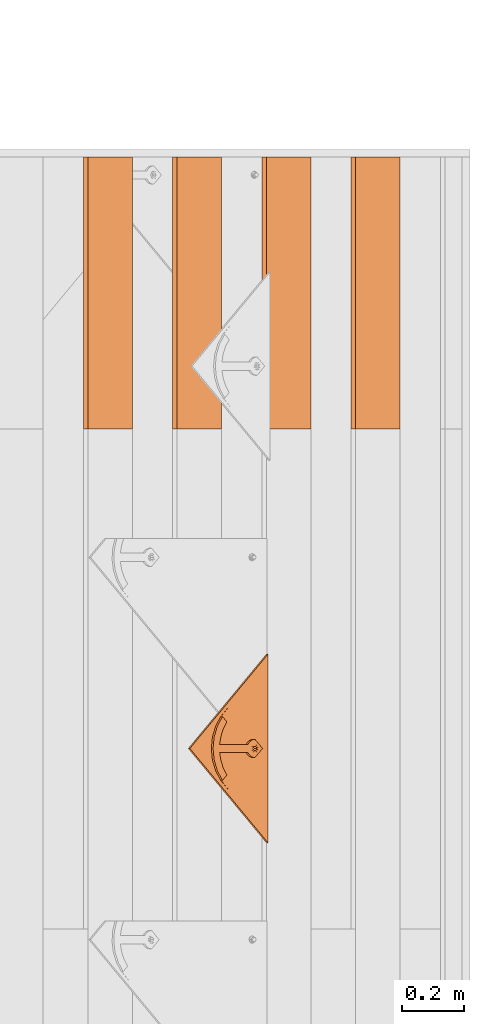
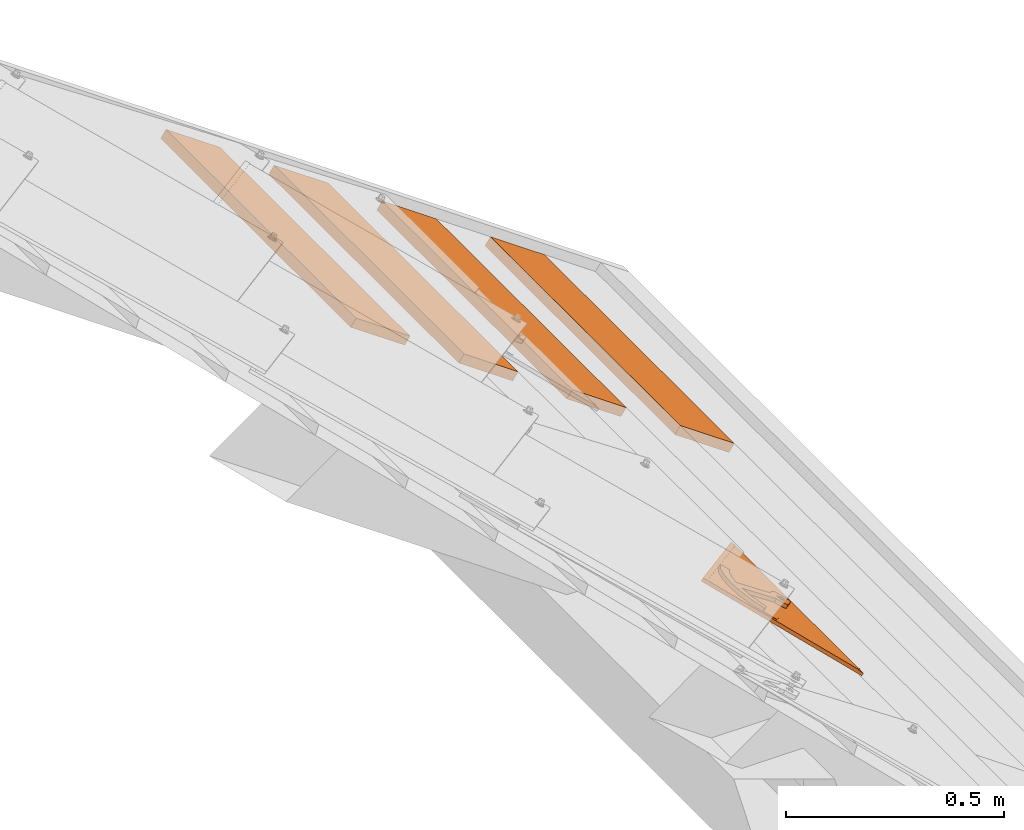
# One storey, part 138 of 151: 5 proxies, 1 element without a shape of its own.
"""IFC2X3 building model written with IfcOpenShell, lengths in millimetres."""

from ifc_helpers import new_model, entity, si_unit, converted_unit, derived_unit, direction, frame, frame_2d, origin, place, context, subcontext, project, spatial, rectangle, extrude, faceted_brep, source, transform, mapped, material, material_list, type_object, type_shapes, element, aggregate, save


model = new_model("IFC2X3")

# Units and contexts
model_context = context("Model", 3, precision=0.01, world=origin(), true_north=direction((6.12303176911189e-17, 1.0)))
body_context = subcontext(model_context, "Body", "Model", "MODEL_VIEW")
ifc_project = project(units=[si_unit("LENGTHUNIT", "METRE", prefix="MILLI"), si_unit("AREAUNIT", "SQUARE_METRE"), si_unit("VOLUMEUNIT", "CUBIC_METRE"), converted_unit("PLANEANGLEUNIT", "DEGREE", entity("IfcRatioMeasure", 0.0174532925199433), si_unit("PLANEANGLEUNIT", "RADIAN"), dimensions=[0, 0, 0, 0, 0, 0, 0]), si_unit("MASSUNIT", "GRAM", prefix="KILO"), derived_unit("MASSDENSITYUNIT", [(si_unit("MASSUNIT", "GRAM", prefix="KILO"), 1), (si_unit("LENGTHUNIT", "METRE"), -3)]), si_unit("TIMEUNIT", "SECOND"), si_unit("FREQUENCYUNIT", "HERTZ"), si_unit("THERMODYNAMICTEMPERATUREUNIT", "DEGREE_CELSIUS"), derived_unit("THERMALTRANSMITTANCEUNIT", [(si_unit("MASSUNIT", "GRAM", prefix="KILO"), 1), (si_unit("THERMODYNAMICTEMPERATUREUNIT", "KELVIN"), -1), (si_unit("TIMEUNIT", "SECOND"), -3)]), derived_unit("VOLUMETRICFLOWRATEUNIT", [(si_unit("LENGTHUNIT", "METRE"), 3), (si_unit("TIMEUNIT", "SECOND"), -1)]), si_unit("ELECTRICCURRENTUNIT", "AMPERE"), si_unit("ELECTRICVOLTAGEUNIT", "VOLT"), si_unit("POWERUNIT", "WATT"), si_unit("FORCEUNIT", "NEWTON", prefix="KILO"), si_unit("ILLUMINANCEUNIT", "LUX"), si_unit("LUMINOUSFLUXUNIT", "LUMEN"), si_unit("LUMINOUSINTENSITYUNIT", "CANDELA"), derived_unit("USERDEFINED", [(si_unit("MASSUNIT", "GRAM", prefix="KILO"), -1), (si_unit("LENGTHUNIT", "METRE"), -2), (si_unit("TIMEUNIT", "SECOND"), 3), (si_unit("LUMINOUSFLUXUNIT", "LUMEN"), 1)]), derived_unit("LINEARVELOCITYUNIT", [(si_unit("LENGTHUNIT", "METRE"), 1), (si_unit("TIMEUNIT", "SECOND"), -1)]), si_unit("PRESSUREUNIT", "PASCAL"), derived_unit("USERDEFINED", [(si_unit("LENGTHUNIT", "METRE"), -2), (si_unit("MASSUNIT", "GRAM", prefix="KILO"), 1), (si_unit("TIMEUNIT", "SECOND"), -2)])], contexts=[model_context])

# Site, building, storey
site_placement = place(None, origin())
site = spatial("IfcSite", under=ifc_project, at=site_placement, Name="Default", CompositionType="ELEMENT")
building_placement = place(site_placement, origin())
building = spatial("IfcBuilding", under=site, at=building_placement, CompositionType="ELEMENT")
storey_placement = place(building_placement, origin())
storey = spatial("IfcBuildingStorey", under=building, at=storey_placement, Name="Level 1", CompositionType="ELEMENT", Elevation=0.0)

# Assembly, proxies
assembly_placement = place(storey_placement, origin())
assembly = element("IfcElementAssembly", 1, at=assembly_placement, inside=storey, Name="Structural Framing Assembly:Roof Construction Assembly", ObjectType="Structural Framing Assembly:Roof Construction Assembly", AssemblyPlace="NOTDEFINED", PredefinedType="USERDEFINED")
ifc_material_1 = material(Name="Wood - Generic - Wood For Showcase")
building_element_proxy_type_1 = type_object("IfcBuildingElementProxyType", Name="Structural Framing 15", PredefinedType="NOTDEFINED", material=ifc_material_1)
shared_shape_1 = source(origin(), body_context, "Body", "SweptSolid", [
    extrude(rectangle(XDim=24.9999999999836, YDim=174.344679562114, at=frame_2d((2.98427949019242e-13, -4.2632564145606e-14), x_axis=(1.0, 0.0))), frame((1285.3560130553, 3055.55080214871, 2760.23940055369), z_axis=(0.0, 1.0, 0.0), x_axis=(0.573576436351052, 0.0, 0.819152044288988)), (0.0, 0.0, 1.0), 870.000000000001),
])
type_shapes(building_element_proxy_type_1, [shared_shape_1])
proxy_1_placement = place(assembly_placement, frame((2770.96908392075, 0.0, -1900.0)))
proxy_1 = element("IfcBuildingElementProxy", 2, at=proxy_1_placement, type_object=building_element_proxy_type_1, material=ifc_material_1, Name="Structural Framing 254:Structural Framing 15", ObjectType="Structural Framing 254:Structural Framing 15", context=body_context, shape_type="MappedRepresentation", body=[
    mapped(shared_shape_1, transform((0.0, 0.0, 0.0), scale=1.0)),
])
building_element_proxy_type_2 = type_object("IfcBuildingElementProxyType", Name="Structural Framing 15", PredefinedType="NOTDEFINED", material=ifc_material_1)
shared_shape_2 = source(origin(), body_context, "Body", "SweptSolid", [
    extrude(rectangle(XDim=24.9999999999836, YDim=174.344679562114, at=frame_2d((2.98427949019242e-13, -4.2632564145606e-14), x_axis=(1.0, 0.0))), frame((1285.3560130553, 3055.55080214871, 2760.23940055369), z_axis=(0.0, 1.0, 0.0), x_axis=(0.573576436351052, 0.0, 0.819152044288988)), (0.0, 0.0, 1.0), 870.000000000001),
])
type_shapes(building_element_proxy_type_2, [shared_shape_2])
proxy_2_placement = place(assembly_placement, frame((3056.5986852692, 0.0, -2100.0)))
proxy_2 = element("IfcBuildingElementProxy", 3, at=proxy_2_placement, type_object=building_element_proxy_type_2, material=ifc_material_1, Name="Structural Framing 264:Structural Framing 15", ObjectType="Structural Framing 264:Structural Framing 15", context=body_context, shape_type="MappedRepresentation", body=[
    mapped(shared_shape_2, transform((0.0, 0.0, 0.0), scale=1.0)),
])
building_element_proxy_type_3 = type_object("IfcBuildingElementProxyType", Name="Structural Framing 15", PredefinedType="NOTDEFINED", material=ifc_material_1)
shared_shape_3 = source(origin(), body_context, "Body", "SweptSolid", [
    extrude(rectangle(XDim=24.9999999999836, YDim=174.344679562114, at=frame_2d((2.98427949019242e-13, -4.2632564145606e-14), x_axis=(1.0, 0.0))), frame((1285.3560130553, 3055.55080214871, 2760.23940055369), z_axis=(0.0, 1.0, 0.0), x_axis=(0.573576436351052, 0.0, 0.819152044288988)), (0.0, 0.0, 1.0), 870.000000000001),
])
type_shapes(building_element_proxy_type_3, [shared_shape_3])
proxy_3_placement = place(assembly_placement, frame((3342.22828661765, 0.0, -2300.0)))
proxy_3 = element("IfcBuildingElementProxy", 4, at=proxy_3_placement, type_object=building_element_proxy_type_3, material=ifc_material_1, Name="Structural Framing 274:Structural Framing 15", ObjectType="Structural Framing 274:Structural Framing 15", context=body_context, shape_type="MappedRepresentation", body=[
    mapped(shared_shape_3, transform((0.0, 0.0, 0.0), scale=1.0)),
])
building_element_proxy_type_4 = type_object("IfcBuildingElementProxyType", Name="Structural Framing 15", PredefinedType="NOTDEFINED", material=ifc_material_1)
shared_shape_4 = source(origin(), body_context, "Body", "SweptSolid", [
    extrude(rectangle(XDim=24.9999999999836, YDim=174.344679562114, at=frame_2d((2.98427949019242e-13, -4.2632564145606e-14), x_axis=(1.0, 0.0))), frame((1285.3560130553, 3055.55080214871, 2760.23940055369), z_axis=(0.0, 1.0, 0.0), x_axis=(0.573576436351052, 0.0, 0.819152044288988)), (0.0, 0.0, 1.0), 870.000000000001),
])
type_shapes(building_element_proxy_type_4, [shared_shape_4])
proxy_4_placement = place(assembly_placement, frame((3627.8578879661, 0.0, -2500.0)))
proxy_4 = element("IfcBuildingElementProxy", 5, at=proxy_4_placement, type_object=building_element_proxy_type_4, material=ifc_material_1, Name="Structural Framing 284:Structural Framing 15", ObjectType="Structural Framing 284:Structural Framing 15", context=body_context, shape_type="MappedRepresentation", body=[
    mapped(shared_shape_4, transform((0.0, 0.0, 0.0), scale=1.0)),
])
aggregate(assembly, [proxy_1, proxy_2, proxy_3, proxy_4])

# Proxy
ifc_material_2 = material(Name="Rubber - Sunstyle - Black")
ifc_material_3 = material(Name="Glass - Sunstyle - Tainted Black")
ifc_material_list_1 = material_list([ifc_material_2, ifc_material_3])
ifc_material_list_2 = material_list([ifc_material_2, ifc_material_3])
building_element_proxy_type_5 = type_object("IfcBuildingElementProxyType", Name="Shingle Bottom Small - Black", PredefinedType="NOTDEFINED", material=ifc_material_list_2)
shared_shape_5 = source(origin(), body_context, "Body", "Brep", [
    faceted_brep([(302.08842791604, 44.9093317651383, 22.0558382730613), (302.08842791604, 49.408700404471, 21.980485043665), (293.484723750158, 48.4726030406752, 21.9961623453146), (310.692132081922, 48.4726030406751, 21.9961623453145), (308.728656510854, 53.2419006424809, 21.9162884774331), (314.255903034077, 57.0751008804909, 21.8520919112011), (308.728656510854, 60.9083011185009, 21.7878953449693), (310.692132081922, 65.6775987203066, 21.7080214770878), (302.08842791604, 64.7415013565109, 21.7236987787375), (302.08842791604, 69.2408699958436, 21.6483455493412), (293.484723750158, 65.6775987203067, 21.708021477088), (295.448199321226, 60.908301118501, 21.7878953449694), (289.920952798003, 57.0751008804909, 21.8520919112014), (295.448199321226, 53.2419006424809, 21.9162884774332), (295.448199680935, 60.6403782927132, 5.79013870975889), (302.08842791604, 64.473578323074, 5.72594214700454), (295.448199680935, 52.9739782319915, 5.91853183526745), (302.08842791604, 49.1407782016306, 5.98272839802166), (308.728656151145, 52.9739782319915, 5.91853183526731), (308.728656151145, 60.6403782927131, 5.79013870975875), (293.484723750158, 48.2046804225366, 5.99840570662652), (302.08842791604, 44.6414091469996, 6.05808163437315), (289.920952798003, 56.8071782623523, 5.85433527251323), (293.484723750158, 65.4096761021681, 5.71026483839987), (302.08842791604, 68.972947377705, 5.65058891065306), (310.692132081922, 65.409676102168, 5.71026483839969), (314.255903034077, 56.8071782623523, 5.85433527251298), (310.692132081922, 48.2046804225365, 5.99840570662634)], [[[0, 1, 2]], [[1, 0, 3]], [[3, 4, 1]], [[4, 3, 5]], [[6, 4, 5]], [[5, 7, 6]], [[7, 8, 6]], [[8, 7, 9]], [[8, 9, 10]], [[10, 11, 8]], [[12, 11, 10]], [[2, 13, 12]], [[12, 13, 11]], [[13, 2, 1]], [[8, 11, 14, 15]], [[11, 13, 16, 14]], [[13, 1, 17, 16]], [[1, 4, 18, 17]], [[4, 6, 19, 18]], [[6, 8, 15, 19]], [[20, 17, 21]], [[17, 20, 16]], [[22, 16, 20]], [[14, 16, 22]], [[23, 14, 22]], [[15, 14, 23]], [[23, 24, 15]], [[24, 25, 15]], [[19, 15, 25]], [[19, 25, 26]], [[26, 18, 19]], [[26, 27, 18]], [[17, 18, 27]], [[27, 21, 17]], [[24, 23, 10, 9]], [[10, 23, 22, 12]], [[20, 21, 0, 2]], [[20, 2, 12, 22]], [[21, 27, 3, 0]], [[3, 27, 26, 5]], [[25, 24, 9, 7]], [[25, 7, 5, 26]]]),
    faceted_brep([(587.35835892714, 0.0, 12.5593198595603), (595.843045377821, 8.4846864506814, 12.4172224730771), (595.843045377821, 8.50980419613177, 13.9170121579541), (587.35835892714, 0.0251177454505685, 14.0591095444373), (302.088750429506, 285.189618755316, 7.7831033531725), (16.8191419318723, 0.0, 12.5593198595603), (8.33445548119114, 8.48468645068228, 12.4172224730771), (302.088750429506, 302.156612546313, 7.49894842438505), (302.088750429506, 302.181730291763, 8.9987381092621), (8.33445548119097, 8.50980419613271, 13.9170121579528), (16.8191419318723, 0.0251177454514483, 14.0591095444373), (302.088750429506, 285.214736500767, 9.28289303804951)], [[[0, 1, 2, 3]], [[1, 0, 4, 5, 6, 7]], [[2, 1, 7, 8]], [[3, 2, 8, 9, 10, 11]], [[0, 3, 11, 4]], [[5, 10, 9, 6]], [[8, 7, 6, 9]], [[4, 11, 10, 5]]]),
    faceted_brep([(302.088750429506, 302.156612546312, 7.49894842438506), (305.194256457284, 68.3255429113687, 11.4150370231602), (308.088427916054, 67.1269059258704, 11.4351112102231), (302.088427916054, 68.7343756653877, 11.4081900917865), (310.573709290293, 65.2201498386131, 11.4670446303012), (298.982599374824, 68.3255429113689, 11.4150370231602), (296.088427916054, 67.1269059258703, 11.4351112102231), (293.603146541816, 65.2201498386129, 11.4670446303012), (312.480732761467, 62.7352169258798, 11.5086610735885), (604.177500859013, 0.152567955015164, 12.5567647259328), (291.696123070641, 62.7352169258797, 11.5086610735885), (0.0, 0.152567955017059, 12.5567647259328), (290.497318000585, 59.8414512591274, 11.5571244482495), (290.088427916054, 56.7360581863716, 11.6091320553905), (290.497318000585, 53.6306651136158, 11.6611396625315), (291.696123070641, 50.7368994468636, 11.7096030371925), (293.603146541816, 48.2519665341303, 11.7512194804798), (296.088427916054, 46.3452104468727, 11.7831529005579), (298.982599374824, 45.1465734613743, 11.8032270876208), (302.088427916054, 44.7377407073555, 11.8100740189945), (313.679537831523, 59.8414512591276, 11.5571244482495), (314.088427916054, 56.7360581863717, 11.6091320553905), (313.679537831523, 53.6306651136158, 11.6611396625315), (312.480732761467, 50.7368994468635, 11.7096030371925), (310.573709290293, 48.2519665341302, 11.7512194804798), (308.088427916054, 46.3452104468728, 11.7831529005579), (305.194256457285, 45.1465734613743, 11.8032270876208), (0.0, 0.0269792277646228, 5.0578163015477), (290.088427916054, 56.6104694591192, 4.11018363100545), (290.497318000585, 53.5050763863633, 4.16219123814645), (290.497318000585, 59.7158625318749, 4.05817602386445), (291.696123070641, 50.6113107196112, 4.21065461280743), (291.696123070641, 62.6096281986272, 4.00971264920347), (302.088750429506, 302.031023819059, 0.0), (293.603146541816, 48.1263778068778, 4.25227105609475), (296.088427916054, 46.2196217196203, 4.28420447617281), (298.982599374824, 45.0209847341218, 4.30427866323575), (302.088427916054, 44.612151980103, 4.31112559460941), (604.177500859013, 0.0269792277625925, 5.05781630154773), (293.603146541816, 65.0945611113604, 3.96809620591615), (296.088427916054, 67.0013171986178, 3.93616278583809), (298.982599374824, 68.1999541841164, 3.91608859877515), (302.088427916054, 68.6087869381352, 3.90924166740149), (305.194256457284, 68.1999541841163, 3.91608859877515), (308.088427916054, 67.0013171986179, 3.93616278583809), (310.573709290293, 65.0945611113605, 3.96809620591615), (312.480732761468, 62.6096281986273, 4.00971264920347), (305.194256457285, 45.0209847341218, 4.30427866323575), (308.088427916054, 46.2196217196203, 4.28420447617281), (313.679537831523, 59.7158625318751, 4.05817602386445), (314.088427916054, 56.6104694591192, 4.11018363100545), (313.679537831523, 53.5050763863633, 4.16219123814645), (312.480732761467, 50.611310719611, 4.21065461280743), (310.573709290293, 48.1263778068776, 4.25227105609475)], [[[0, 1, 2]], [[1, 0, 3]], [[0, 2, 4]], [[5, 3, 0]], [[6, 5, 0]], [[0, 7, 6]], [[8, 0, 4]], [[0, 8, 9]], [[7, 0, 10]], [[0, 11, 10]], [[12, 10, 11]], [[11, 13, 12]], [[13, 11, 14]], [[15, 14, 11]], [[11, 16, 15]], [[17, 16, 11]], [[17, 11, 18]], [[19, 18, 11]], [[19, 11, 9]], [[9, 8, 20]], [[20, 21, 9]], [[21, 22, 9]], [[22, 23, 9]], [[9, 23, 24]], [[24, 25, 9]], [[25, 26, 9]], [[9, 26, 19]], [[27, 28, 29]], [[28, 27, 30]], [[27, 29, 31]], [[32, 30, 27]], [[32, 27, 33]], [[31, 34, 27]], [[34, 35, 27]], [[35, 36, 27]], [[36, 37, 27]], [[27, 37, 38]], [[33, 39, 32]], [[40, 39, 33]], [[41, 40, 33]], [[42, 41, 33]], [[33, 43, 42]], [[43, 33, 44]], [[45, 44, 33]], [[33, 46, 45]], [[46, 33, 38]], [[38, 37, 47]], [[47, 48, 38]], [[49, 46, 38]], [[38, 50, 49]], [[50, 38, 51]], [[52, 51, 38]], [[53, 52, 38]], [[53, 38, 48]], [[11, 0, 33, 27]], [[0, 9, 38, 33]], [[13, 28, 30, 12]], [[12, 30, 32, 10]], [[6, 7, 39, 40]], [[39, 7, 10, 32]], [[5, 6, 40, 41]], [[5, 41, 42, 3]], [[3, 42, 43, 1]], [[1, 43, 44, 2]], [[8, 4, 45, 46]], [[45, 4, 2, 44]], [[20, 8, 46, 49]], [[20, 49, 50, 21]], [[21, 50, 51, 22]], [[22, 51, 52, 23]], [[25, 24, 53, 48]], [[53, 24, 23, 52]], [[26, 25, 48, 47]], [[26, 47, 37, 19]], [[19, 37, 36, 18]], [[18, 36, 35, 17]], [[15, 16, 34, 31]], [[34, 16, 17, 35]], [[14, 15, 31, 29]], [[14, 29, 28, 13]], [[9, 11, 27, 38]]]),
    faceted_brep([(190.819384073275, 138.646056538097, 12.7376939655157), (217.144031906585, 164.967013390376, 12.2968834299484), (200.060856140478, 182.04779392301, 12.0108228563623), (193.80845410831, 176.686146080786, 12.100617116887), (187.837458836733, 171.012871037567, 12.1956303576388), (173.141714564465, 156.321247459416, 12.4416784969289), (431.035141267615, 156.321247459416, 12.4416784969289), (416.339396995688, 171.012871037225, 12.1956303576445), (410.36840172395, 176.686146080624, 12.1006171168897), (404.115999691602, 182.047793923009, 12.0108228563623), (387.031626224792, 164.968210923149, 12.2968633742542), (413.357471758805, 138.646056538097, 12.7376939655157), (296.088427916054, 67.294357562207, 21.4337091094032), (288.788427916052, 83.1076295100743, 21.1688761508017), (283.384321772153, 79.569581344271, 21.2281296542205), (293.603146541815, 65.3876014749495, 21.4656425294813), (298.982599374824, 68.4929945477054, 21.4136349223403), (302.088427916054, 68.9018273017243, 21.4067879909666), (315.388427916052, 83.107629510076, 21.1688761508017), (305.194256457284, 68.4929945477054, 21.4136349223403), (308.088427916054, 67.2943575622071, 21.4337091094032), (320.792534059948, 79.5695813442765, 21.2281296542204), (310.573709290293, 65.3876014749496, 21.4656425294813), (325.293078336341, 74.9365758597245, 21.3057209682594), (312.480732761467, 62.9026685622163, 21.5072589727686), (328.672647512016, 69.4324252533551, 21.3979017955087), (313.679537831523, 60.0089028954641, 21.5557223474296), (330.767980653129, 63.323025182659, 21.500219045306), (314.088427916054, 56.9035098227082, 21.6077299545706), (331.477855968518, 56.9035098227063, 21.6077299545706), (313.679537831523, 53.7981167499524, 21.6597375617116), (312.480732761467, 50.9043510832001, 21.7082009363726), (310.573709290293, 48.4194181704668, 21.7498173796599), (302.08842791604, 27.5182024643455, 22.0998607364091), (308.088427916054, 46.5126620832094, 21.7817507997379), (305.194256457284, 45.314025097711, 21.8018249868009), (302.088427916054, 44.9051923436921, 21.8086719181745), (298.982599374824, 45.314025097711, 21.8018249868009), (296.088427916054, 46.5126620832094, 21.7817507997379), (293.603146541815, 48.4194181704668, 21.7498173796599), (272.69899986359, 56.903509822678, 21.6077299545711), (291.696123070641, 50.9043510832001, 21.7082009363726), (290.497318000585, 53.7981167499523, 21.6597375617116), (290.088427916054, 56.9035098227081, 21.6077299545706), (273.408875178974, 63.3230251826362, 21.5002190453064), (290.497318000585, 60.008902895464, 21.5557223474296), (275.504208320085, 69.4324252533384, 21.397901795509), (291.696123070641, 62.9026685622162, 21.5072589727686), (278.883777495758, 74.9365758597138, 21.3057209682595), (288.788427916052, 192.984512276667, 19.3287117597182), (315.388427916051, 192.984512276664, 19.3287117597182), (302.088427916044, 218.456125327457, 18.9021256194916), (338.579268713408, 214.282159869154, 18.9720291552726), (340.858170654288, 188.169632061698, 19.4093490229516), (373.184513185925, 201.975945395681, 19.1781276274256), (365.012761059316, 178.765998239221, 19.5668364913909), (404.115999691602, 182.173382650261, 19.5097712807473), (387.032823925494, 165.092602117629, 19.7958318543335), (265.59758711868, 214.28215986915, 18.9720291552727), (263.318685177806, 188.169632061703, 19.4093490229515), (230.992342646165, 201.975945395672, 19.1781276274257), (239.164094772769, 178.765998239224, 19.5668364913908), (200.06085614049, 182.173382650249, 19.5097712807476), (217.144031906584, 165.092602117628, 19.7958318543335), (302.08842791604, 27.3507508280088, 12.1012628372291), (302.088427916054, 44.7377407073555, 11.8100740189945), (305.194256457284, 45.1465734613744, 11.8032270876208), (298.982599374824, 45.1465734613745, 11.8032270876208), (308.088427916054, 46.3452104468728, 11.7831529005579), (310.573709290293, 48.2519665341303, 11.7512194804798), (331.477855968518, 56.7360581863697, 11.6091320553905), (296.088427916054, 46.3452104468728, 11.7831529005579), (293.603146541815, 48.2519665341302, 11.7512194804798), (272.69899986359, 56.7360581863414, 11.609132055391), (291.696123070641, 50.7368994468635, 11.7096030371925), (290.497318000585, 53.6306651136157, 11.6611396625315), (290.088427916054, 56.7360581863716, 11.6091320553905), (273.408875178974, 63.1555735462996, 11.5016211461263), (290.497318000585, 59.8414512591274, 11.5571244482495), (275.504208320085, 69.2649736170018, 11.3993038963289), (291.696123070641, 62.7352169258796, 11.5086610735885), (278.883777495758, 74.7691242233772, 11.3071230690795), (293.603146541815, 65.2201498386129, 11.4670446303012), (283.384321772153, 79.4021297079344, 11.2295317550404), (296.088427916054, 67.1269059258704, 11.4351112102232), (288.788427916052, 82.9401778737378, 11.1702782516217), (298.982599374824, 68.3255429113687, 11.4150370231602), (302.088427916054, 68.7343756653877, 11.4081900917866), (315.388427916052, 82.9401778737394, 11.1702782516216), (288.788427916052, 192.81706064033, 9.33011386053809), (315.388427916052, 192.817060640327, 9.33011386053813), (302.088427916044, 218.28867369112, 8.90352772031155), (265.59758711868, 214.114708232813, 8.97343125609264), (263.318685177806, 188.002180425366, 9.41075112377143), (230.992342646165, 201.808493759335, 9.17952972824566), (239.164094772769, 178.598546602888, 9.56823859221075), (200.06085614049, 182.005931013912, 9.51117338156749), (217.145229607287, 164.926348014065, 9.79721389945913), (193.80845410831, 176.644283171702, 9.60096764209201), (187.837458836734, 170.971008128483, 9.69598088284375), (190.819384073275, 138.604193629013, 10.2380444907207), (173.141714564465, 156.279384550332, 9.94202902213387), (338.579268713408, 214.114708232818, 8.97343125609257), (340.858170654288, 188.002180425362, 9.41075112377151), (373.184513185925, 201.808493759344, 9.17952972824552), (365.012761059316, 178.598546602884, 9.5682385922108), (404.115999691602, 182.005931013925, 9.51117338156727), (387.032823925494, 164.925150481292, 9.79723395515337), (410.36840172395, 176.64428317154, 9.60096764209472), (416.339396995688, 170.971008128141, 9.69598088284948), (413.357471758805, 138.604193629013, 10.2380444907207), (431.035141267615, 156.279384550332, 9.94202902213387), (305.194256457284, 68.3255429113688, 11.4150370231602), (308.088427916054, 67.1269059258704, 11.4351112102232), (320.792534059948, 79.4021297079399, 11.2295317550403), (310.573709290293, 65.220149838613, 11.4670446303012), (325.293078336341, 74.7691242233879, 11.3071230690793), (312.480732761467, 62.7352169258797, 11.5086610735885), (328.672647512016, 69.2649736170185, 11.3993038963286), (313.679537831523, 59.8414512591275, 11.5571244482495), (330.767980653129, 63.1555735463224, 11.5016211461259), (314.088427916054, 56.7360581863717, 11.6091320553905), (312.480732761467, 50.7368994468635, 11.7096030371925), (313.679537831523, 53.6306651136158, 11.6611396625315)], [[[0, 1, 2, 3, 4, 5]], [[6, 7, 8, 9, 10, 11]], [[12, 13, 14]], [[12, 14, 15]], [[16, 13, 12]], [[17, 13, 16]], [[18, 13, 17]], [[17, 19, 18]], [[19, 20, 18]], [[20, 21, 18]], [[21, 20, 22]], [[21, 22, 23]], [[24, 23, 22]], [[23, 24, 25]], [[24, 26, 25]], [[27, 25, 26]], [[26, 28, 27]], [[29, 27, 28]], [[28, 30, 29]], [[30, 31, 29]], [[29, 31, 32]], [[32, 33, 29]], [[32, 34, 33]], [[35, 33, 34]], [[36, 33, 35]], [[33, 36, 37]], [[38, 33, 37]], [[38, 39, 33]], [[40, 33, 39]], [[41, 40, 39]], [[41, 42, 40]], [[42, 43, 40]], [[43, 44, 40]], [[45, 44, 43]], [[45, 46, 44]], [[45, 47, 46]], [[48, 46, 47]], [[48, 47, 15]], [[48, 15, 14]], [[18, 49, 13]], [[50, 49, 18]], [[51, 49, 50]], [[50, 52, 51]], [[50, 53, 52]], [[52, 53, 54]], [[53, 55, 54]], [[56, 54, 55]], [[57, 56, 55]], [[58, 49, 51]], [[49, 58, 59]], [[60, 59, 58]], [[60, 61, 59]], [[61, 60, 62]], [[62, 63, 61]], [[64, 65, 66]], [[65, 64, 67]], [[64, 66, 68]], [[68, 69, 64]], [[64, 69, 70]], [[71, 67, 64]], [[71, 64, 72]], [[72, 64, 73]], [[73, 74, 72]], [[74, 73, 75]], [[75, 73, 76]], [[77, 76, 73]], [[76, 77, 78]], [[78, 77, 79]], [[80, 78, 79]], [[81, 80, 79]], [[82, 80, 81]], [[83, 82, 81]], [[83, 84, 82]], [[85, 84, 83]], [[85, 86, 84]], [[87, 86, 85]], [[88, 87, 85]], [[89, 88, 85]], [[88, 89, 90]], [[89, 91, 90]], [[91, 89, 92]], [[93, 92, 89]], [[92, 93, 94]], [[95, 94, 93]], [[96, 94, 95]], [[95, 97, 96]], [[97, 98, 96]], [[98, 97, 99]], [[97, 100, 99]], [[99, 100, 101]], [[90, 91, 102]], [[103, 90, 102]], [[103, 102, 104]], [[105, 103, 104]], [[106, 105, 104]], [[107, 105, 106]], [[106, 108, 107]], [[109, 107, 108]], [[110, 107, 109]], [[109, 111, 110]], [[112, 87, 88]], [[113, 112, 88]], [[114, 113, 88]], [[115, 113, 114]], [[115, 114, 116]], [[116, 117, 115]], [[117, 116, 118]], [[118, 119, 117]], [[120, 119, 118]], [[121, 120, 70]], [[120, 121, 119]], [[70, 69, 122]], [[122, 123, 70]], [[123, 121, 70]], [[13, 49, 89, 85]], [[14, 13, 85, 83]], [[48, 14, 83, 81]], [[81, 79, 46, 48]], [[44, 46, 79, 77]], [[40, 44, 77, 73]], [[33, 40, 73, 64]], [[0, 5, 101, 100]], [[29, 33, 64, 70]], [[6, 11, 110, 111]], [[27, 29, 70, 120]], [[25, 27, 120, 118]], [[118, 116, 23, 25]], [[21, 23, 116, 114]], [[18, 21, 114, 88]], [[50, 18, 88, 90]], [[9, 106, 104, 54, 56]], [[52, 54, 104, 102]], [[51, 52, 102, 91]], [[58, 51, 91, 92]], [[94, 96, 2, 62, 60]], [[60, 58, 92, 94]], [[43, 76, 78, 45]], [[45, 78, 80, 47]], [[12, 15, 82, 84]], [[80, 82, 15, 47]], [[16, 12, 84, 86]], [[87, 17, 16, 86]], [[19, 112, 113, 20]], [[20, 113, 115, 22]], [[26, 24, 117, 119]], [[115, 117, 24, 22]], [[28, 26, 119, 121]], [[19, 17, 87, 112]], [[28, 121, 123, 30]], [[30, 123, 122, 31]], [[34, 32, 69, 68]], [[122, 69, 32, 31]], [[35, 34, 68, 66]], [[65, 36, 35, 66]], [[37, 67, 71, 38]], [[38, 71, 72, 39]], [[42, 41, 74, 75]], [[72, 74, 41, 39]], [[43, 42, 75, 76]], [[37, 36, 65, 67]], [[7, 6, 111, 109]], [[7, 109, 108, 8]], [[108, 106, 9, 8]], [[11, 10, 107, 110]], [[1, 0, 100, 97]], [[2, 96, 98, 3]], [[98, 99, 4, 3]], [[5, 4, 99, 101]], [[63, 62, 2, 1]], [[56, 57, 10]], [[10, 9, 56]], [[1, 95, 61, 63]], [[1, 97, 95]], [[93, 89, 49, 59]], [[95, 93, 59, 61]], [[90, 103, 53, 50]], [[103, 105, 55, 53]], [[10, 57, 55]], [[107, 10, 105]], [[55, 105, 10]]]),
])
type_shapes(building_element_proxy_type_5, [shared_shape_5])
proxy_5_placement = place(storey_placement, frame((4560.90421878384, 1731.0688674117, 520.069325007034), z_axis=(0.573576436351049, 0.0, 0.81915204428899), x_axis=(0.0, 1.0, 0.0)))
element("IfcBuildingElementProxy", 6, at=proxy_5_placement, inside=storey, type_object=building_element_proxy_type_5, material=ifc_material_list_1, Name="Roofing_Panels_SunStyle_Tile_Shingle-Bottom-Small:Shingle Bottom Small - Black", ObjectType="Roofing_Panels_SunStyle_Tile_Shingle-Bottom-Small:Shingle Bottom Small - Black", context=body_context, shape_type="MappedRepresentation", body=[
    mapped(shared_shape_5, transform((0.0, 0.0, 0.0), scale=1.0)),
])

save(model, "model.ifc")
